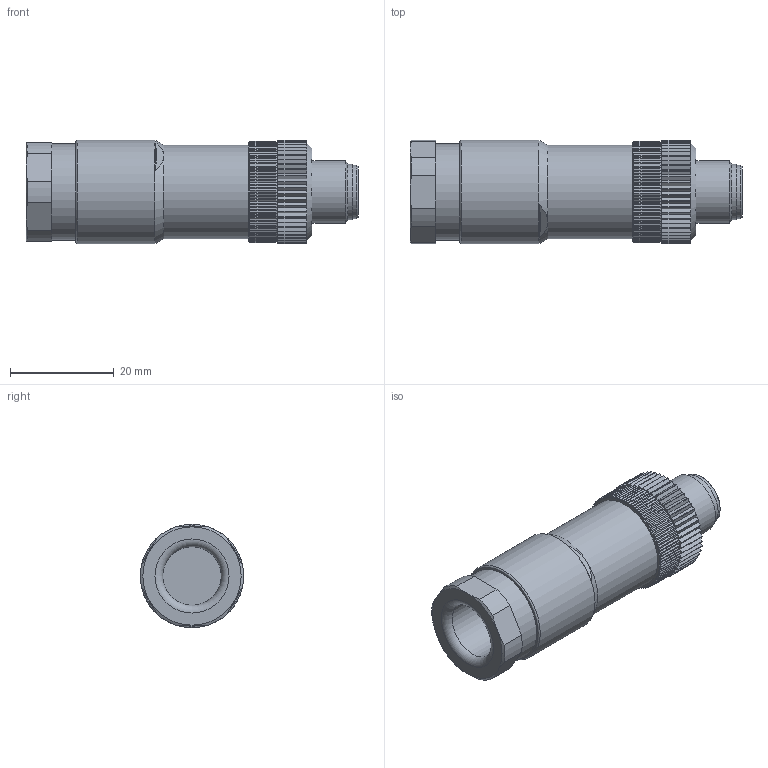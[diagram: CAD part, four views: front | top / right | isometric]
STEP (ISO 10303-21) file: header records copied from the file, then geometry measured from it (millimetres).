
FILE_DESCRIPTION(/* description */ (''),/* implementation_level */ '2;1');
FILE_NAME(/* name */ '99 0437 XXX 05 007_00-Duostecker PG11 A-kod. 5p..stp',/* time_stamp */ '2019-05-21T10:23:15+02:00',/* author */ (''),/* organization */ (''),/* preprocessor_version */ 'ST-DEVELOPER v16',/* originating_system */ 'SIEMENS PLM Software NX 11.0',/* authorisation */ '');
FILE_SCHEMA (('AUTOMOTIVE_DESIGN { 1 0 10303 214 3 1 1 1 }'));
Length unit declared in the file: millimetre
Products named in the file (1): rhen163804A2ugx7
Bounding box: 64.14 x 20 x 20 mm (x, y, z)
Volume: 15446.7 mm3; surface area: 5464.7 mm2
Topology: 1 solids, 2 shells, 534 faces, 1547 edges, 1027 vertices
Faces by surface type: plane 336, cylinder 179, cone 12, sphere 5, torus 2
Full cylindrical faces by diameter (mm): 1 x5, 8.3 x1, 9.4 x1, 9.45 x1, 10.3 x1, 10.773 x1, 11.3 x1, 12 x1, 18 x1, 18.6 x1, 18.8 x1, 19 x1, 20 x1
Entity records: 17495 total; most frequent: CARTESIAN_POINT 3690, ORIENTED_EDGE 2996, DIRECTION 2727, EDGE_CURVE 1498, VERTEX_POINT 1009, AXIS2_PLACEMENT_3D 910, LINE 907, VECTOR 907
